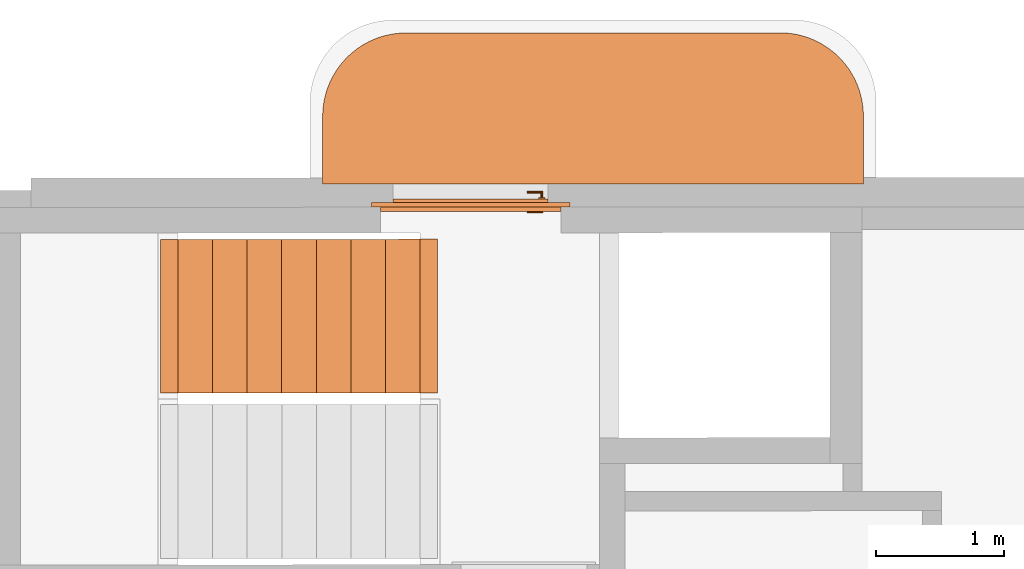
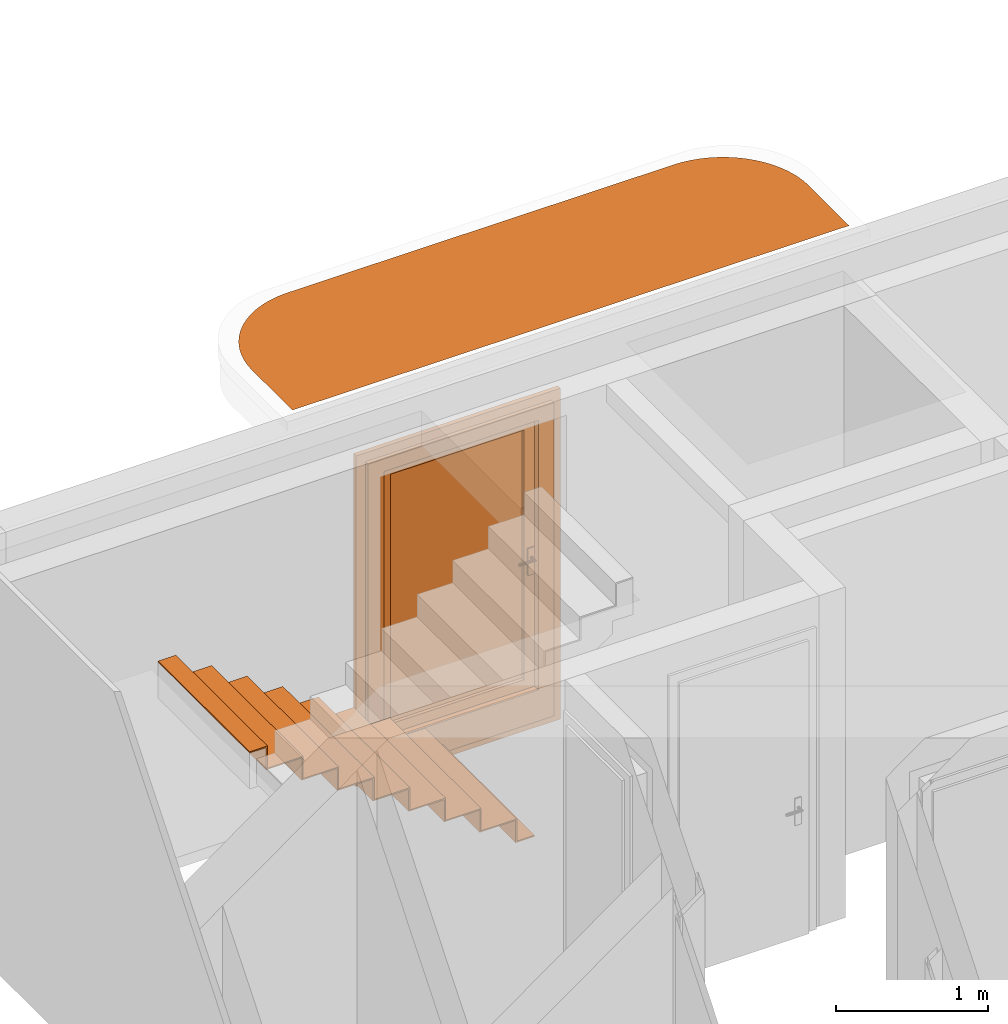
# One storey, part 8 of 9: 3 proxies.
"""IFC2X3 building model written with IfcOpenShell, lengths in metres."""

from ifc_helpers import new_model, entity, si_unit, converted_unit, derived_unit, direction, frame, origin, origin_with_axes, place, context, subcontext, project, spatial, closed_shell, open_shell, faceted_brep, surface_model, source, transform, mapped, element, save


model = new_model("IFC2X3")

# Units and contexts
model_context = context("Model", 3, precision=1e-05, world=origin(), true_north=direction((0.772621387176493, -0.634867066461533)))
body_context = subcontext(model_context, "Body", "Model", "MODEL_VIEW")
ifc_project = project(units=[si_unit("LENGTHUNIT", "METRE"), si_unit("AREAUNIT", "SQUARE_METRE"), si_unit("VOLUMEUNIT", "CUBIC_METRE"), si_unit("MASSUNIT", "GRAM", prefix="KILO"), converted_unit("PLANEANGLEUNIT", "DEGREE", entity("IfcPlaneAngleMeasure", 0.0174532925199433), si_unit("PLANEANGLEUNIT", "RADIAN"), dimensions=[0, 0, 0, 0, 0, 0, 0]), derived_unit("THERMALTRANSMITTANCEUNIT", [(si_unit("POWERUNIT", "WATT"), 1), (si_unit("THERMODYNAMICTEMPERATUREUNIT", "KELVIN"), -1), (si_unit("LENGTHUNIT", "METRE"), -2)]), derived_unit("VOLUMETRICFLOWRATEUNIT", [(si_unit("LENGTHUNIT", "METRE"), 3), (converted_unit("TIMEUNIT", "hour", entity("IfcTimeMeasure", 3600.0), si_unit("TIMEUNIT", "SECOND"), dimensions=[0, 0, 1, 0, 0, 0, 0]), -1), (si_unit("LENGTHUNIT", "METRE"), -1)])], contexts=[model_context])

# Site, building, storey
site_placement = place(None, origin())
site = spatial("IfcSite", under=ifc_project, at=site_placement, Name="Modelle auf dem Nullpunkt", CompositionType="ELEMENT")
building_placement = place(site_placement, origin())
building = spatial("IfcBuilding", under=site, at=building_placement, Name="I", CompositionType="ELEMENT")
storey_placement = place(building_placement, origin())
storey = spatial("IfcBuildingStorey", under=building, at=storey_placement, Name="EG", CompositionType="ELEMENT", Elevation=0.0)

# Proxies
shared_shape = source(origin_with_axes(), body_context, "Body", "SurfaceModel", [
    surface_model("IfcShellBasedSurfaceModel", [(1.48000000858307, 0.0799999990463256, 2.58), (1.36000000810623, 0.0799999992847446, 2.58), (1.36000000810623, 0.0799999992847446, 0.07), (1.48000000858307, 0.0799999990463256, 0.07), (1.48000000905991, 0.01, 0.07), (1.36000000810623, 0.01, 0.07), (1.36000000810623, 0.01, 2.58), (1.48000000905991, 0.01, 2.58)], [closed_shell([[[0, 1, 2, 3]], [[4, 5, 6, 7]], [[3, 4, 7, 0]], [[2, 5, 4, 3]], [[1, 6, 5, 2]], [[0, 7, 6, 1]]], orient=[[False], [False], [False], [False], [False], [False]])]),
    surface_model("IfcShellBasedSurfaceModel", [(1.48000000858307, 0.0799999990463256, 2.65), (1.48000000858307, 0.0799999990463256, 0.0), (1.55000000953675, 0.0799999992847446, 0.0), (1.55000000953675, 0.0799999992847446, 2.65), (1.48000000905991, 0.0449999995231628, 0.0), (1.48000000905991, 0.0449999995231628, 2.65), (1.55000000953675, 0.0449999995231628, 2.65), (1.55000000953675, 0.0449999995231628, 0.0)], [closed_shell([[[0, 1, 2, 3]], [[4, 5, 6, 7]], [[1, 0, 5, 4]], [[2, 1, 4, 7]], [[3, 2, 7, 6]], [[0, 3, 6, 5]]], orient=[[False], [False], [False], [False], [False], [False]])]),
    surface_model("IfcShellBasedSurfaceModel", [(0.190000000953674, 0.0799999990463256, 2.58), (0.0700000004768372, 0.0799999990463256, 2.58), (0.0700000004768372, 0.0799999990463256, 0.07), (0.190000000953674, 0.0799999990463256, 0.07), (0.190000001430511, 0.01, 0.07), (0.0700000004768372, 0.01, 0.07), (0.0700000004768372, 0.01, 2.58), (0.190000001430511, 0.01, 2.58)], [closed_shell([[[0, 1, 2, 3]], [[4, 5, 6, 7]], [[3, 4, 7, 0]], [[2, 5, 4, 3]], [[1, 6, 5, 2]], [[0, 7, 6, 1]]], orient=[[False], [False], [False], [False], [False], [False]])]),
    surface_model("IfcShellBasedSurfaceModel", [(0.0700000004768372, 0.0799999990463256, 2.65), (0.0, 0.0799999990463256, 2.65), (0.0, 0.0799999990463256, 0.0), (0.0700000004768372, 0.0799999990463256, 0.0), (0.0700000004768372, 0.0449999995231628, 0.0), (0.0, 0.0449999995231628, 0.0), (0.0, 0.0449999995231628, 2.65), (0.0700000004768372, 0.0449999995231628, 2.65)], [closed_shell([[[0, 1, 2, 3]], [[4, 5, 6, 7]], [[3, 4, 7, 0]], [[2, 5, 4, 3]], [[1, 6, 5, 2]], [[0, 7, 6, 1]]], orient=[[False], [False], [False], [False], [False], [False]])]),
    surface_model("IfcShellBasedSurfaceModel", [(1.36000000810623, 0.0799999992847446, 0.32), (0.190000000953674, 0.0799999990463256, 0.32), (0.190000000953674, 0.0799999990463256, 0.07), (1.36000000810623, 0.0799999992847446, 0.07), (1.36000000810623, 0.01, 0.07), (0.190000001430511, 0.01, 0.07), (0.190000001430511, 0.01, 0.32), (1.36000000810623, 0.01, 0.32)], [closed_shell([[[0, 1, 2, 3]], [[4, 5, 6, 7]], [[3, 4, 7, 0]], [[2, 5, 4, 3]], [[1, 6, 5, 2]], [[0, 7, 6, 1]]], orient=[[False], [False], [False], [False], [False], [False]])]),
    surface_model("IfcShellBasedSurfaceModel", [(1.48000000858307, 0.0799999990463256, 0.07), (0.0700000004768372, 0.0799999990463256, 0.07), (0.0700000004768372, 0.0799999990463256, 0.0), (1.48000000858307, 0.0799999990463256, 0.0), (1.48000000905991, 0.0449999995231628, 0.0), (0.0700000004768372, 0.0449999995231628, 0.0), (0.0700000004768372, 0.0449999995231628, 0.07), (1.48000000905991, 0.0449999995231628, 0.07)], [closed_shell([[[0, 1, 2, 3]], [[4, 5, 6, 7]], [[3, 4, 7, 0]], [[2, 5, 4, 3]], [[1, 6, 5, 2]], [[0, 7, 6, 1]]], orient=[[False], [False], [False], [False], [False], [False]])]),
    surface_model("IfcShellBasedSurfaceModel", [(1.36000000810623, 0.0799999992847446, 2.58), (0.190000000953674, 0.0799999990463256, 2.58), (0.190000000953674, 0.0799999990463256, 2.48), (1.36000000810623, 0.0799999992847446, 2.48), (1.36000000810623, 0.01, 2.48), (0.190000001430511, 0.01, 2.48), (0.190000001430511, 0.01, 2.58), (1.36000000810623, 0.01, 2.58)], [closed_shell([[[0, 1, 2, 3]], [[4, 5, 6, 7]], [[3, 4, 7, 0]], [[2, 5, 4, 3]], [[1, 6, 5, 2]], [[0, 7, 6, 1]]], orient=[[False], [False], [False], [False], [False], [False]])]),
    surface_model("IfcShellBasedSurfaceModel", [(1.48000000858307, 0.0799999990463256, 2.65), (0.0700000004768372, 0.0799999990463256, 2.65), (0.0700000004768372, 0.0799999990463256, 2.58), (1.48000000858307, 0.0799999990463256, 2.58), (1.48000000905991, 0.0449999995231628, 2.58), (0.0700000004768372, 0.0449999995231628, 2.58), (0.0700000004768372, 0.0449999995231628, 2.65), (1.48000000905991, 0.0449999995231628, 2.65)], [closed_shell([[[0, 1, 2, 3]], [[4, 5, 6, 7]], [[3, 4, 7, 0]], [[2, 5, 4, 3]], [[1, 6, 5, 2]], [[0, 7, 6, 1]]], orient=[[False], [False], [False], [False], [False], [False]])]),
    surface_model("IfcShellBasedSurfaceModel", [(1.38000000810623, 0.109999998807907, 2.5), (1.2800000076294, 0.109999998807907, 2.5), (1.2800000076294, 0.109999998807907, 0.3), (1.38000000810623, 0.109999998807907, 0.3), (1.38000000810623, 0.0599999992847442, 0.3), (1.2800000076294, 0.0599999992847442, 0.3), (1.2800000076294, 0.0599999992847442, 2.5), (1.38000000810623, 0.0599999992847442, 2.5)], [closed_shell([[[0, 1, 2, 3]], [[4, 5, 6, 7]], [[3, 4, 7, 0]], [[2, 5, 4, 3]], [[1, 6, 5, 2]], [[0, 7, 6, 1]]], orient=[[False], [False], [False], [False], [False], [False]])]),
    surface_model("IfcShellBasedSurfaceModel", [(0.270000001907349, 0.109999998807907, 2.5), (0.170000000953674, 0.109999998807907, 2.5), (0.170000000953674, 0.109999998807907, 0.3), (0.270000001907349, 0.109999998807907, 0.3), (0.270000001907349, 0.0599999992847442, 0.3), (0.170000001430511, 0.0599999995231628, 0.3), (0.170000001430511, 0.0599999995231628, 2.5), (0.270000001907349, 0.0599999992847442, 2.5)], [closed_shell([[[0, 1, 2, 3]], [[4, 5, 6, 7]], [[3, 4, 7, 0]], [[2, 5, 4, 3]], [[1, 6, 5, 2]], [[0, 7, 6, 1]]], orient=[[False], [False], [False], [False], [False], [False]])]),
    surface_model("IfcShellBasedSurfaceModel", [(1.2800000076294, 0.109999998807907, 0.4), (0.270000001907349, 0.109999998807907, 0.4), (0.270000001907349, 0.109999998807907, 0.3), (1.2800000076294, 0.109999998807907, 0.3), (1.2800000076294, 0.0599999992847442, 0.3), (0.270000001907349, 0.0599999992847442, 0.3), (0.270000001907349, 0.0599999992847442, 0.4), (1.2800000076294, 0.0599999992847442, 0.4)], [closed_shell([[[0, 1, 2, 3]], [[4, 5, 6, 7]], [[3, 4, 7, 0]], [[2, 5, 4, 3]], [[1, 6, 5, 2]], [[0, 7, 6, 1]]], orient=[[False], [False], [False], [False], [False], [False]])]),
    surface_model("IfcShellBasedSurfaceModel", [(1.2800000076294, 0.109999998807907, 2.5), (0.270000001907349, 0.109999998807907, 2.5), (0.270000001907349, 0.109999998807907, 2.4), (1.2800000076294, 0.109999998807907, 2.4), (1.2800000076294, 0.0599999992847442, 2.4), (0.270000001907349, 0.0599999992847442, 2.4), (0.270000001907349, 0.0599999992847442, 2.5), (1.2800000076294, 0.0599999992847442, 2.5)], [closed_shell([[[0, 1, 2, 3]], [[4, 5, 6, 7]], [[3, 4, 7, 0]], [[2, 5, 4, 3]], [[1, 6, 5, 2]], [[0, 7, 6, 1]]], orient=[[False], [False], [False], [False], [False], [False]])]),
    surface_model("IfcShellBasedSurfaceModel", [(1.35500000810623, 0.0599999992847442, 1.445), (1.3050000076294, 0.0599999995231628, 1.445), (1.3050000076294, 0.0599999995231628, 1.23), (1.35500000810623, 0.0599999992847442, 1.23), (1.35500000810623, 0.0499999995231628, 1.23), (1.3050000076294, 0.0499999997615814, 1.23), (1.3050000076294, 0.0499999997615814, 1.445), (1.35500000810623, 0.0499999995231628, 1.445)], [closed_shell([[[0, 1, 2, 3]], [[4, 5, 6, 7]], [[3, 4, 7, 0]], [[2, 5, 4, 3]], [[1, 6, 5, 2]], [[0, 7, 6, 1]]], orient=[[False], [False], [False], [False], [False], [False]])]),
    surface_model("IfcShellBasedSurfaceModel", [(1.33000000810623, 0.0499999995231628, 1.38), (1.32500000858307, 0.0499999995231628, 1.37866025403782), (1.32133975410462, 0.0499999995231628, 1.375), (1.3200000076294, 0.0499999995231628, 1.37), (1.32133975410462, 0.0499999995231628, 1.365), (1.32500000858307, 0.0499999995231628, 1.36133974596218), (1.33000000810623, 0.0499999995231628, 1.36), (1.33500000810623, 0.0499999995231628, 1.36133974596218), (1.33866026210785, 0.0499999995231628, 1.365), (1.34000000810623, 0.0499999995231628, 1.37), (1.33866026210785, 0.0499999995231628, 1.375), (1.33500000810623, 0.0499999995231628, 1.37866025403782), (1.3350000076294, 0.0050000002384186, 1.37866025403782), (1.33000000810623, 0.0099999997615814, 1.38), (1.33866026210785, 0.0013397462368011, 1.375), (1.34000000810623, 0.0, 1.37), (1.33866026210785, 0.0013397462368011, 1.365), (1.3350000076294, 0.0050000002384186, 1.36133974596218), (1.33000000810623, 0.0099999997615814, 1.36), (1.32500000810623, 0.015, 1.36133974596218), (1.32133975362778, 0.0186602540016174, 1.365), (1.3200000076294, 0.02, 1.37), (1.32133975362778, 0.0186602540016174, 1.375), (1.32500000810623, 0.015, 1.37866025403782), (1.21500000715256, 0.0100000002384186, 1.38), (1.2150000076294, 0.005, 1.37866025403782), (1.2150000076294, 0.0013397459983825, 1.375), (1.21500000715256, 0.0, 1.37), (1.2150000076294, 0.0013397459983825, 1.365), (1.2150000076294, 0.005, 1.36133974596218), (1.21500000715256, 0.0100000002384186, 1.36), (1.21500000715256, 0.0149999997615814, 1.36133974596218), (1.21500000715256, 0.0186602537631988, 1.365), (1.2150000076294, 0.02, 1.37), (1.21500000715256, 0.0186602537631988, 1.375), (1.21500000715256, 0.0149999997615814, 1.37866025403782)], [closed_shell([[[0, 1, 2, 3, 4, 5, 6, 7, 8, 9, 10, 11]], [[0, 11, 12, 13]], [[11, 10, 14, 12]], [[10, 9, 15, 14]], [[9, 8, 16, 15]], [[8, 7, 17, 16]], [[7, 6, 18, 17]], [[6, 5, 19, 18]], [[5, 4, 20, 19]], [[4, 3, 21, 20]], [[3, 2, 22, 21]], [[2, 1, 23, 22]], [[1, 0, 13, 23]], [[24, 25, 26, 27, 28, 29, 30, 31, 32, 33, 34, 35]], [[13, 12, 25, 24]], [[12, 14, 26, 25]], [[14, 15, 27, 26]], [[15, 16, 28, 27]], [[16, 17, 29, 28]], [[17, 18, 30, 29]], [[18, 19, 31, 30]], [[19, 20, 32, 31]], [[20, 21, 33, 32]], [[21, 22, 34, 33]], [[22, 23, 35, 34]], [[23, 13, 24, 35]]], orient=[[False], [False], [False], [False], [False], [False], [False], [False], [False], [False], [False], [False], [False], [False], [False], [False], [False], [False], [False], [False], [False], [False], [False], [False], [False], [False]])]),
    surface_model("IfcShellBasedSurfaceModel", [(1.35500000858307, 0.109999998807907, 1.445), (1.35500000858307, 0.109999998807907, 1.23), (1.30500000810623, 0.109999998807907, 1.23), (1.30500000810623, 0.109999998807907, 1.445), (1.35500000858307, 0.119999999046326, 1.23), (1.35500000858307, 0.119999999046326, 1.445), (1.30500000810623, 0.119999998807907, 1.445), (1.30500000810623, 0.119999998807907, 1.23)], [closed_shell([[[0, 1, 2, 3]], [[4, 5, 6, 7]], [[1, 0, 5, 4]], [[2, 1, 4, 7]], [[3, 2, 7, 6]], [[0, 3, 6, 5]]], orient=[[False], [False], [False], [False], [False], [False]])]),
    surface_model("IfcShellBasedSurfaceModel", [(1.33000000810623, 0.119999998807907, 1.38), (1.33500000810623, 0.119999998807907, 1.37866025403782), (1.33866026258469, 0.119999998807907, 1.375), (1.34000000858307, 0.119999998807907, 1.37), (1.33866026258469, 0.119999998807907, 1.365), (1.33500000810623, 0.119999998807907, 1.36133974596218), (1.33000000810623, 0.119999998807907, 1.36), (1.32500000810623, 0.119999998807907, 1.36133974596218), (1.32133975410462, 0.119999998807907, 1.365), (1.32000000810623, 0.119999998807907, 1.37), (1.32133975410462, 0.119999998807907, 1.375), (1.32500000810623, 0.119999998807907, 1.37866025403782), (1.3300000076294, 0.15999999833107, 1.38), (1.3350000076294, 0.164999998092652, 1.37866025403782), (1.33866026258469, 0.168660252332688, 1.375), (1.34000000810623, 0.16999999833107, 1.37), (1.33866026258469, 0.168660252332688, 1.365), (1.3350000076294, 0.164999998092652, 1.36133974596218), (1.3300000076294, 0.15999999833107, 1.36), (1.32500000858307, 0.15499999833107, 1.36133974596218), (1.32133975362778, 0.151339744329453, 1.365), (1.32000000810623, 0.149999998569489, 1.37), (1.32133975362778, 0.151339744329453, 1.375), (1.32500000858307, 0.15499999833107, 1.37866025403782), (1.21500000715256, 0.15999999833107, 1.38), (1.2150000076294, 0.154999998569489, 1.37866025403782), (1.21500000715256, 0.151339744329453, 1.375), (1.21500000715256, 0.149999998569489, 1.37), (1.21500000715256, 0.151339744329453, 1.365), (1.2150000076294, 0.154999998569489, 1.36133974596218), (1.21500000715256, 0.15999999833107, 1.36), (1.2150000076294, 0.16499999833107, 1.36133974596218), (1.21500000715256, 0.168660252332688, 1.365), (1.21500000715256, 0.169999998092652, 1.37), (1.21500000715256, 0.168660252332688, 1.375), (1.2150000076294, 0.16499999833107, 1.37866025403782)], [closed_shell([[[0, 1, 2, 3, 4, 5, 6, 7, 8, 9, 10, 11]], [[0, 12, 13, 1]], [[1, 13, 14, 2]], [[2, 14, 15, 3]], [[3, 15, 16, 4]], [[4, 16, 17, 5]], [[5, 17, 18, 6]], [[6, 18, 19, 7]], [[7, 19, 20, 8]], [[8, 20, 21, 9]], [[9, 21, 22, 10]], [[10, 22, 23, 11]], [[11, 23, 12, 0]], [[24, 25, 26, 27, 28, 29, 30, 31, 32, 33, 34, 35]], [[12, 24, 35, 13]], [[13, 35, 34, 14]], [[14, 34, 33, 15]], [[15, 33, 32, 16]], [[16, 32, 31, 17]], [[17, 31, 30, 18]], [[18, 30, 29, 19]], [[19, 29, 28, 20]], [[20, 28, 27, 21]], [[21, 27, 26, 22]], [[22, 26, 25, 23]], [[23, 25, 24, 12]]], orient=[[False], [False], [False], [False], [False], [False], [False], [False], [False], [False], [False], [False], [False], [False], [False], [False], [False], [False], [False], [False], [False], [False], [False], [False], [False], [False]])]),
    surface_model("IfcShellBasedSurfaceModel", [(1.28000000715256, 0.0849999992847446, 0.4), (1.28000000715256, 0.0849999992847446, 2.4), (0.270000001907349, 0.0849999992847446, 2.4), (0.270000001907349, 0.0849999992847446, 0.4)], [open_shell([[[0, 1, 2, 3]]], orient=[[False]])]),
])
proxy_1_placement = place(storey_placement, frame((32.2819634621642, 2.0926445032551, 435.82), z_axis=(0.0, 0.0, 1.0), x_axis=(0.999999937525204, 0.000353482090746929, 0.0)))
element("IfcBuildingElementProxy", 1, at=proxy_1_placement, inside=storey, Name="1flg Weiß Oberlicht", context=body_context, shape_type="MappedRepresentation", body=[
    mapped(shared_shape, transform((0.0, 0.0, 0.0), x_axis=(1.0, 0.0, 0.0), y_axis=(0.0, 1.0, 0.0), z_axis=(0.0, 0.0, 1.0), scale=1.0)),
])
proxy_2_placement = place(storey_placement, frame((30.6368631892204, 0.687063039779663, 436.12007496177)))
element("IfcBuildingElementProxy", 2, at=proxy_2_placement, inside=storey, context=body_context, shape_type="Brep", body=[
    faceted_brep([(0.135004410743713, 1.20004764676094, 1.43505145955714), (0.0, 1.19999992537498, 1.43505145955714), (0.0, 1.19999992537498, 1.42501823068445), (0.125005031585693, 1.20004411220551, 1.42501823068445), (0.125005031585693, 1.20004411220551, 1.2469171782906), (0.395013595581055, 1.20013955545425, 1.2469171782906), (0.395013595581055, 1.20013955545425, 1.06877426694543), (0.665018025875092, 1.20023499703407, 1.06877426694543), (0.665018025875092, 1.20023499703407, 0.890630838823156), (0.93502684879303, 1.20033044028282, 0.890630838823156), (0.93502684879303, 1.20033044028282, 0.712530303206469), (1.20503127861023, 1.20042588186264, 0.712530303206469), (1.20503127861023, 1.20042588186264, 0.534387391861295), (1.47501891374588, 1.20052131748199, 0.534387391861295), (1.47501891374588, 1.20052131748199, 0.35624396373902), (1.74502773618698, 1.20061676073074, 0.35624396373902), (1.74502773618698, 1.20061676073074, 0.178143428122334), (2.01503604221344, 1.20071220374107, 0.178143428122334), (2.01503604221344, 1.20071220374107, 0.0), (2.16007368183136, 1.20076347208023, 0.0), (2.16007368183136, 1.20076347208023, 0.00999136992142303), (2.02506927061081, 1.20071575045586, 0.00999136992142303), (2.02506927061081, 1.20071575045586, 0.188134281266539), (1.75506096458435, 1.20062030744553, 0.188134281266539), (1.75506096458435, 1.20062030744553, 0.366234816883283), (1.48505214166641, 1.20052486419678, 0.366234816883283), (1.48505214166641, 1.20052486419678, 0.544378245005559), (1.21503065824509, 1.20042941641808, 0.544378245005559), (1.21503065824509, 1.20042941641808, 0.722521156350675), (0.94502622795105, 1.20033397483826, 0.722521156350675), (0.94502622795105, 1.20033397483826, 0.900664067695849), (0.675017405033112, 1.20023853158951, 0.900664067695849), (0.675017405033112, 1.20023853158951, 1.07876512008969), (0.405012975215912, 1.20014309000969, 1.07876512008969), (0.405012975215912, 1.20014309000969, 1.25690803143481), (0.135004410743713, 1.20004764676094, 1.25690803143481), (0.135428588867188, 4.77218627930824e-05, 1.43505145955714), (0.135428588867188, 4.77218627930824e-05, 1.25690803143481), (0.405437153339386, 0.000143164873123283, 1.25690803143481), (0.405437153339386, 0.000143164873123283, 1.07876512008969), (0.675441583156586, 0.000238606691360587, 1.07876512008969), (0.675441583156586, 0.000238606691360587, 0.900664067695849), (0.945450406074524, 0.000334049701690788, 0.900664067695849), (0.945450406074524, 0.000334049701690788, 0.722521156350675), (1.21545483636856, 0.000429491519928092, 0.722521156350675), (1.21545483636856, 0.000429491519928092, 0.544378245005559), (1.48547631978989, 0.000524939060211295, 0.544378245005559), (1.48547631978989, 0.000524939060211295, 0.366234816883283), (1.75548514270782, 0.000620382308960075, 0.366234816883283), (1.75548514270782, 0.000620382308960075, 0.188134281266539), (2.02549344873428, 0.000715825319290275, 0.188134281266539), (2.02549344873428, 0.000715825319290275, 0.00999136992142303), (2.16049785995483, 0.000763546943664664, 0.00999136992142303), (2.16049785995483, 0.000763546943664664, 0.0), (2.01546022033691, 0.000712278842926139, 0.0), (2.01546022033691, 0.000712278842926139, 0.178143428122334), (1.74545191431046, 0.000616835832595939, 0.178143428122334), (1.74545191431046, 0.000616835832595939, 0.35624396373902), (1.47544309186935, 0.00052139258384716, 0.35624396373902), (1.47544309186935, 0.00052139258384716, 0.534387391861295), (1.2054554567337, 0.000425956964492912, 0.534387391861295), (1.2054554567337, 0.000425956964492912, 0.712530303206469), (0.935451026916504, 0.000330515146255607, 0.712530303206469), (0.935451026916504, 0.000330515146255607, 0.890630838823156), (0.665442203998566, 0.000235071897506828, 0.890630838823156), (0.665442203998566, 0.000235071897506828, 1.06877426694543), (0.395437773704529, 0.000139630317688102, 1.06877426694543), (0.395437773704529, 0.000139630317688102, 1.2469171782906), (0.125429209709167, 4.41873073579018e-05, 1.2469171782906), (0.125429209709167, 4.41873073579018e-05, 1.42501823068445), (0.000424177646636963, 0.0, 1.42501823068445), (0.000424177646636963, 0.0, 1.43505145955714)], [[[0, 1, 2, 3, 4, 5, 6, 7, 8, 9, 10, 11, 12, 13, 14, 15, 16, 17, 18, 19, 20, 21, 22, 23, 24, 25, 26, 27, 28, 29, 30, 31, 32, 33, 34, 35]], [[36, 37, 38, 39, 40, 41, 42, 43, 44, 45, 46, 47, 48, 49, 50, 51, 52, 53, 54, 55, 56, 57, 58, 59, 60, 61, 62, 63, 64, 65, 66, 67, 68, 69, 70, 71]], [[71, 1, 0, 36]], [[70, 2, 1, 71]], [[69, 3, 2, 70]], [[68, 4, 3, 69]], [[67, 5, 4, 68]], [[66, 6, 5, 67]], [[65, 7, 6, 66]], [[64, 8, 7, 65]], [[63, 9, 8, 64]], [[62, 10, 9, 63]], [[61, 11, 10, 62]], [[60, 12, 11, 61]], [[59, 13, 12, 60]], [[58, 14, 13, 59]], [[57, 15, 14, 58]], [[56, 16, 15, 57]], [[55, 17, 16, 56]], [[54, 18, 17, 55]], [[53, 19, 18, 54]], [[52, 20, 19, 53]], [[51, 21, 20, 52]], [[50, 22, 21, 51]], [[49, 23, 22, 50]], [[48, 24, 23, 49]], [[47, 25, 24, 48]], [[46, 26, 25, 47]], [[45, 27, 26, 46]], [[44, 28, 27, 45]], [[43, 29, 28, 44]], [[42, 30, 29, 43]], [[41, 31, 30, 42]], [[40, 32, 31, 41]], [[39, 33, 32, 40]], [[38, 34, 33, 39]], [[37, 35, 34, 38]], [[36, 0, 35, 37]]], orient=[[False], [False], [False], [False], [False], [False], [False], [False], [False], [False], [False], [False], [False], [False], [False], [False], [False], [False], [False], [False], [False], [False], [False], [False], [False], [False], [False], [False], [False], [False], [False], [False], [False], [False], [False], [False], [False], [False]]),
])
proxy_3_placement = place(storey_placement, frame((31.9019688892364, 2.31751024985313, 438.861)))
element("IfcBuildingElementProxy", 3, at=proxy_3_placement, inside=storey, context=body_context, shape_type="SurfaceModel", body=[
    surface_model("IfcShellBasedSurfaceModel", [(4.21736243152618, 0.589756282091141, 0.0), (4.21933492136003, 0.560653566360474, 0.0), (4.21999973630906, 0.531491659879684, 0.0), (4.22018708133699, 0.00149169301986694, 0.0), (0.000187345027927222, 0.0, 0.0), (0.0, 0.529999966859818, 0.0), (0.000644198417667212, 0.559162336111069, 0.0), (0.00259611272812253, 0.588266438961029, 0.0), (0.00585181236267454, 0.617253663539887, 0.0), (0.0104047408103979, 0.646065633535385, 0.0), (0.0162457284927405, 0.674644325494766, 0.0), (0.0233630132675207, 0.702932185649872, 0.0), (0.0317422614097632, 0.730872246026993, 0.0), (0.0413665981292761, 0.758408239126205, 0.0), (0.0522166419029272, 0.785484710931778, 0.0), (0.0642705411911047, 0.812047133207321, 0.0), (0.0775040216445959, 0.838042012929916, 0.0), (0.0918904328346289, 0.863416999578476, 0.0), (0.107400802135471, 0.88812099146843, 0.0), (0.124003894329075, 0.912104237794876, 0.0), (0.141666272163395, 0.935318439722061, 0.0), (0.16035236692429, 0.957716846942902, 0.0), (0.180024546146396, 0.979254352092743, 0.0), (0.200643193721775, 0.999887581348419, 0.0), (0.222166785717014, 1.01957498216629, 0.0), (0.244551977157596, 1.03827690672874, 0.0), (0.267753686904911, 1.05595569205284, 0.0), (0.291725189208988, 1.07257573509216, 0.0), (0.316418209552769, 1.0881035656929, 0.0), (0.341783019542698, 1.10250791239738, 0.0), (0.367768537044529, 1.11575976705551, 0.0), (0.394322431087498, 1.12783244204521, 0.0), (0.421391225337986, 1.1387016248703, 0.0), (0.448920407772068, 1.14834542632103, 0.0), (0.476854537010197, 1.15674442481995, 0.0), (0.50513735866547, 1.16388170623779, 0.0), (0.533711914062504, 1.16974289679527, 0.0), (0.562520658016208, 1.17431619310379, 0.0), (0.591505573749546, 1.17759238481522, 0.0), (0.620608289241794, 1.17956487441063, 0.0), (0.649770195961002, 1.18022968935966, 0.0), (3.56977001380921, 1.1812618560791, 0.0), (3.59893238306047, 1.18061765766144, 0.0), (3.628036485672, 1.17866574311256, 0.0), (3.65702371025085, 1.17541004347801, 0.0), (3.68583568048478, 1.17085711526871, 0.0), (3.71441437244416, 1.16501612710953, 0.0), (3.74270223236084, 1.15789884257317, 0.0), (3.77064229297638, 1.14951959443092, 0.0), (3.79817828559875, 1.13989525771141, 0.0), (3.82525475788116, 1.12904521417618, 0.0), (3.85181718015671, 1.116991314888, 0.0), (3.87781205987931, 1.10375783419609, 0.0), (3.90318704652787, 1.08937142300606, 0.0), (3.92789103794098, 1.07386105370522, 0.0), (3.95187428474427, 1.05725796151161, 0.0), (3.97508848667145, 1.03959558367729, 0.0), (3.99748689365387, 1.02090948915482, 0.0), (4.01902439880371, 1.00123730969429, 0.0), (4.03965762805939, 0.980618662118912, 0.0), (4.05934502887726, 0.959095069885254, 0.0), (4.07804695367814, 0.93670987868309, 0.0), (4.09572573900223, 0.913508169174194, 0.0), (4.11234578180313, 0.88953666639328, 0.0), (4.12787361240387, 0.864843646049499, 0.0), (4.14227795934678, 0.839478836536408, 0.0), (4.15552981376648, 0.813493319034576, 0.0), (4.1676024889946, 0.786939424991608, 0.0), (4.17847167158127, 0.759870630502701, 0.0), (4.18811547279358, 0.732341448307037, 0.0), (4.19651447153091, 0.704407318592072, 0.0), (4.20365175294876, 0.676124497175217, 0.0), (4.20951294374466, 0.647549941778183, 0.0), (4.21408623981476, 0.618741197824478, 0.0)], [open_shell([[[0, 1, 2, 3, 4, 5, 6, 7, 8, 9, 10, 11, 12, 13, 14, 15, 16, 17, 18, 19, 20, 21, 22, 23, 24, 25, 26, 27, 28, 29, 30, 31, 32, 33, 34, 35, 36, 37, 38, 39, 40, 41, 42, 43, 44, 45, 46, 47, 48, 49, 50, 51, 52, 53, 54, 55, 56, 57, 58, 59, 60, 61, 62, 63, 64, 65, 66, 67, 68, 69, 70, 71, 72, 73]]], orient=[[False]])]),
])

save(model, "model.ifc")
